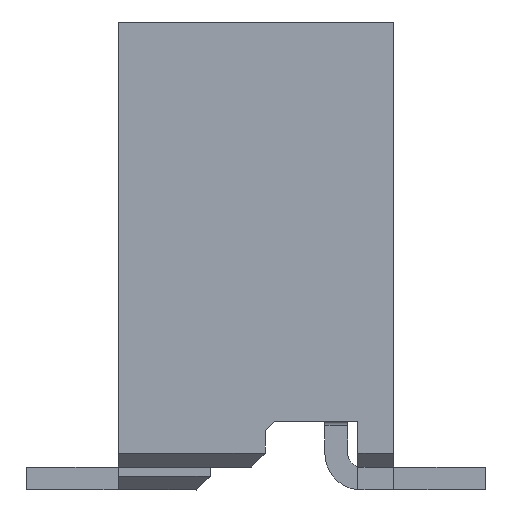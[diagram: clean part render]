
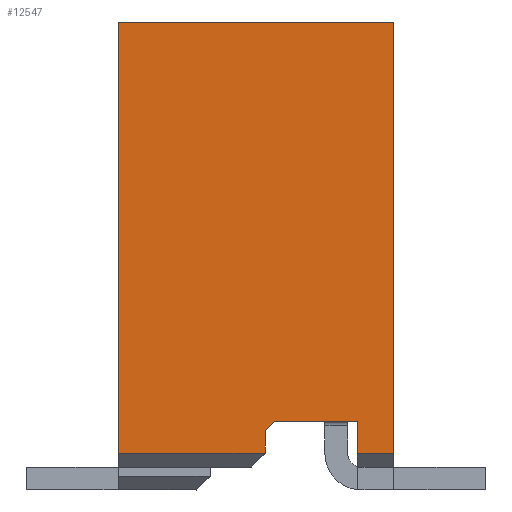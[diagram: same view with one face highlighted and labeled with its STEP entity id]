
A CAD part, left-side view. The second image highlights one B-rep face of the part: STEP entity #12547.
In plain terms, the highlighted planar face has unit normal (-1, 0, 0).
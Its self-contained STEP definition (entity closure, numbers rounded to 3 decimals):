
#17 = CARTESIAN_POINT ( 'NONE',  ( -7., 0., 0.4 ) ) ;
#64 = ORIENTED_EDGE ( 'NONE', *, *, #9227, .T. ) ;
#85 = FACE_OUTER_BOUND ( 'NONE', #6328, .T. ) ;
#344 = EDGE_CURVE ( 'NONE', #9657, #6752, #13451, .T. ) ;
#407 = EDGE_CURVE ( 'NONE', #9657, #9637, #6825, .T. ) ;
#480 = CARTESIAN_POINT ( 'NONE',  ( -7., -1.6, 0. ) ) ;
#786 = CARTESIAN_POINT ( 'NONE',  ( -7., 0., 5.1 ) ) ;
#1030 = VECTOR ( 'NONE', #5249, 1000. ) ;
#1600 = VECTOR ( 'NONE', #5904, 1000. ) ;
#1713 = ORIENTED_EDGE ( 'NONE', *, *, #8037, .T. ) ;
#1732 = CARTESIAN_POINT ( 'NONE',  ( -7., -1.7, 0.75 ) ) ;
#1763 = VECTOR ( 'NONE', #4228, 1000. ) ;
#2134 = CARTESIAN_POINT ( 'NONE',  ( -7., -2.61, 0.75 ) ) ;
#2211 = DIRECTION ( 'NONE',  ( 0., 0., -1. ) ) ;
#2223 = LINE ( 'NONE', #11873, #1600 ) ;
#2468 = CARTESIAN_POINT ( 'NONE',  ( -7., -3., 5.1 ) ) ;
#2784 = VECTOR ( 'NONE', #2211, 1000. ) ;
#3333 = ORIENTED_EDGE ( 'NONE', *, *, #12851, .T. ) ;
#3520 = DIRECTION ( 'NONE',  ( -1., 0., 0. ) ) ;
#3680 = PLANE ( 'NONE',  #13307 ) ;
#3779 = ORIENTED_EDGE ( 'NONE', *, *, #4425, .F. ) ;
#4228 = DIRECTION ( 'NONE',  ( 0., 1., 0. ) ) ;
#4425 = EDGE_CURVE ( 'NONE', #15033, #13674, #11147, .T. ) ;
#5249 = DIRECTION ( 'NONE',  ( 0., 0., -1. ) ) ;
#5646 = VECTOR ( 'NONE', #10217, 1000. ) ;
#5871 = VERTEX_POINT ( 'NONE', #7593 ) ;
#5904 = DIRECTION ( 'NONE',  ( 0., 0., -1. ) ) ;
#6328 = EDGE_LOOP ( 'NONE', ( #3779, #1713, #12776, #3333, #13302, #8036, #13831, #64, #6837 ) ) ;
#6436 = LINE ( 'NONE', #786, #1763 ) ;
#6752 = VERTEX_POINT ( 'NONE', #9326 ) ;
#6825 = LINE ( 'NONE', #15305, #15399 ) ;
#6837 = ORIENTED_EDGE ( 'NONE', *, *, #11907, .F. ) ;
#7593 = CARTESIAN_POINT ( 'NONE',  ( -7., 0., 5.1 ) ) ;
#7635 = CARTESIAN_POINT ( 'NONE',  ( -7., -0.475, -0.475 ) ) ;
#8036 = ORIENTED_EDGE ( 'NONE', *, *, #407, .T. ) ;
#8037 = EDGE_CURVE ( 'NONE', #15033, #10085, #14859, .T. ) ;
#8118 = CARTESIAN_POINT ( 'NONE',  ( -7., 0., 0.4 ) ) ;
#8167 = DIRECTION ( 'NONE',  ( 0., 0., 1. ) ) ;
#8797 = CARTESIAN_POINT ( 'NONE',  ( -7., -2.003, 0.75 ) ) ;
#9210 = VERTEX_POINT ( 'NONE', #8118 ) ;
#9227 = EDGE_CURVE ( 'NONE', #5871, #9210, #2223, .T. ) ;
#9326 = CARTESIAN_POINT ( 'NONE',  ( -7., -2.61, 0.4 ) ) ;
#9492 = CARTESIAN_POINT ( 'NONE',  ( -7., 0., 0. ) ) ;
#9637 = VERTEX_POINT ( 'NONE', #2468 ) ;
#9657 = VERTEX_POINT ( 'NONE', #10957 ) ;
#9952 = LINE ( 'NONE', #17, #11494 ) ;
#10085 = VERTEX_POINT ( 'NONE', #12271 ) ;
#10217 = DIRECTION ( 'NONE',  ( 0., -0.707, 0.707 ) ) ;
#10469 = EDGE_CURVE ( 'NONE', #10085, #10729, #12745, .T. ) ;
#10486 = CARTESIAN_POINT ( 'NONE',  ( -7., -1.6, 0.65 ) ) ;
#10729 = VERTEX_POINT ( 'NONE', #2134 ) ;
#10737 = DIRECTION ( 'NONE',  ( 0., 0., 1. ) ) ;
#10957 = CARTESIAN_POINT ( 'NONE',  ( -7., -3., 0.4 ) ) ;
#11147 = LINE ( 'NONE', #480, #1030 ) ;
#11167 = CARTESIAN_POINT ( 'NONE',  ( -7., 0., 0.4 ) ) ;
#11494 = VECTOR ( 'NONE', #12967, 1000. ) ;
#11873 = CARTESIAN_POINT ( 'NONE',  ( -7., 0., 0. ) ) ;
#11877 = VECTOR ( 'NONE', #12263, 1000. ) ;
#11907 = EDGE_CURVE ( 'NONE', #13674, #9210, #9952, .T. ) ;
#12239 = EDGE_CURVE ( 'NONE', #9637, #5871, #6436, .T. ) ;
#12263 = DIRECTION ( 'NONE',  ( 0., 1., 0. ) ) ;
#12271 = CARTESIAN_POINT ( 'NONE',  ( -7., -1.7, 0.75 ) ) ;
#12547 = ADVANCED_FACE ( 'NONE', ( #85 ), #3680, .T. ) ;
#12745 = B_SPLINE_CURVE_WITH_KNOTS ( 'NONE', 3,
 ( #1732, #8797, #14926, #12763 ),
 .UNSPECIFIED., .F., .F.,
 ( 4, 4 ),
 ( 0., 1. ),
 .UNSPECIFIED. ) ;
#12763 = CARTESIAN_POINT ( 'NONE',  ( -7., -2.61, 0.75 ) ) ;
#12776 = ORIENTED_EDGE ( 'NONE', *, *, #10469, .T. ) ;
#12815 = LINE ( 'NONE', #12973, #2784 ) ;
#12851 = EDGE_CURVE ( 'NONE', #10729, #6752, #12815, .T. ) ;
#12967 = DIRECTION ( 'NONE',  ( 0., 1., 0. ) ) ;
#12973 = CARTESIAN_POINT ( 'NONE',  ( -7., -2.61, 0. ) ) ;
#13302 = ORIENTED_EDGE ( 'NONE', *, *, #344, .F. ) ;
#13307 = AXIS2_PLACEMENT_3D ( 'NONE', #9492, #3520, #10737 ) ;
#13451 = LINE ( 'NONE', #11167, #11877 ) ;
#13674 = VERTEX_POINT ( 'NONE', #13866 ) ;
#13831 = ORIENTED_EDGE ( 'NONE', *, *, #12239, .T. ) ;
#13866 = CARTESIAN_POINT ( 'NONE',  ( -7., -1.6, 0.4 ) ) ;
#14859 = LINE ( 'NONE', #7635, #5646 ) ;
#14926 = CARTESIAN_POINT ( 'NONE',  ( -7., -2.307, 0.75 ) ) ;
#15033 = VERTEX_POINT ( 'NONE', #10486 ) ;
#15305 = CARTESIAN_POINT ( 'NONE',  ( -7., -3., 0. ) ) ;
#15399 = VECTOR ( 'NONE', #8167, 1000. ) ;
